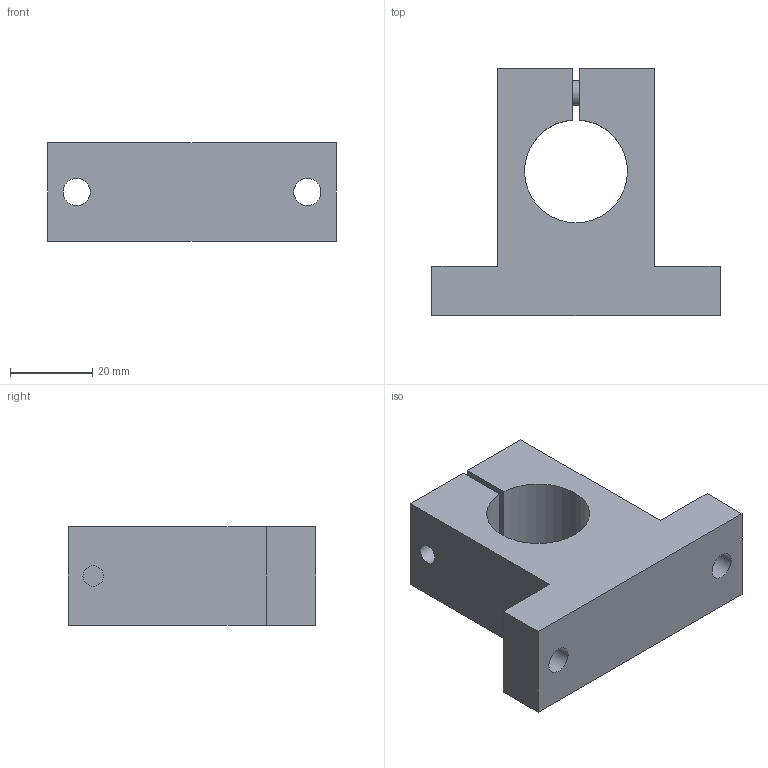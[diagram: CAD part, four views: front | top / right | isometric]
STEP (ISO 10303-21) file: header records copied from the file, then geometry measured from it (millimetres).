
FILE_DESCRIPTION(('STEP AP203'),'1');
FILE_NAME('//192.168.1.1/share/s-4 技術開発/s-4-14_個人別フォルダ/橋詰/09_CAD_DATA/3D/HP用/3Ｄモデル/SN-A/SN-25A.step','2021-09-16T02:45:15',(' '),(' '),'Spatial InterOp 3D',' ',' ');
FILE_SCHEMA(('CONFIG_CONTROL_DESIGN'));
Length unit declared in the file: millimetre
Products named in the file (2): 1; 2
Bounding box: 70 x 60 x 24 mm (x, y, z)
Volume: 50616.5 mm3; surface area: 14833.7 mm2
Topology: 2 solids, 2 shells, 34 faces, 84 edges, 57 vertices
Faces by surface type: plane 24, cylinder 9, cone 1
Full cylindrical faces by diameter (mm): 5 x1, 6 x2, 6.6 x3, 10 x1, 11 x1
Entity records: 1054 total; most frequent: CARTESIAN_POINT 191, DIRECTION 158, ORIENTED_EDGE 140, EDGE_CURVE 70, EDGE_LOOP 54, AXIS2_PLACEMENT_3D 53, VERTEX_POINT 52, LINE 52
